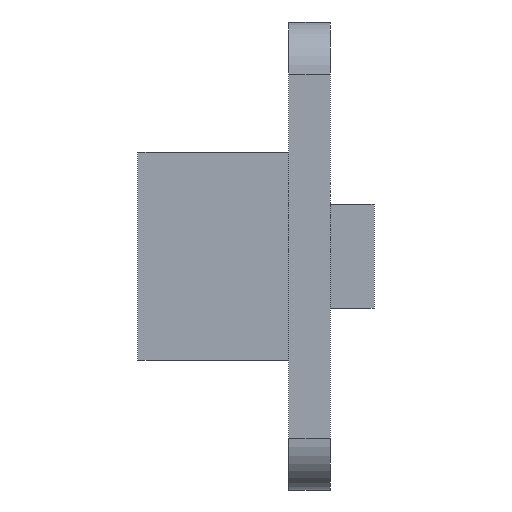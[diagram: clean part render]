
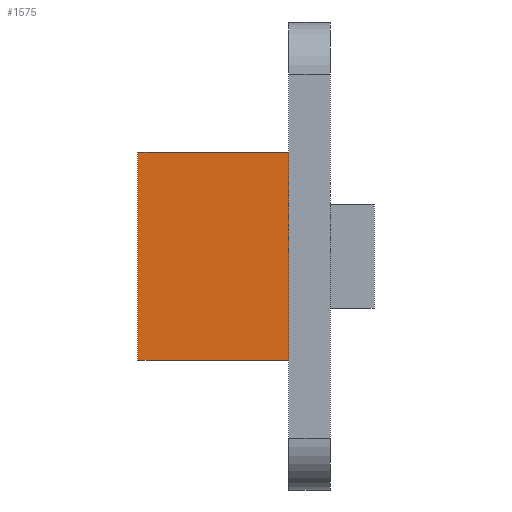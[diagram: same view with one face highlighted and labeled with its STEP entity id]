
A CAD part, left-side view. The second image highlights one B-rep face of the part: STEP entity #1575.
In plain terms, the highlighted planar face has unit normal (-1, 0, 0).
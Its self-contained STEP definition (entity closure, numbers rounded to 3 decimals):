
#100 = PLANE('',#101);
#101 = AXIS2_PLACEMENT_3D('',#102,#103,#104);
#102 = CARTESIAN_POINT('',(-24.,-52.7,15.5));
#103 = DIRECTION('',(-0.,1.,0.));
#104 = DIRECTION('',(0.,0.,1.));
#782 = VERTEX_POINT('',#783);
#783 = CARTESIAN_POINT('',(-23.,-52.7,22.));
#798 = PLANE('',#799);
#799 = AXIS2_PLACEMENT_3D('',#800,#801,#802);
#800 = CARTESIAN_POINT('',(-23.,-52.71,22.));
#801 = DIRECTION('',(0.,0.,1.));
#802 = DIRECTION('',(1.,0.,-0.));
#809 = EDGE_CURVE('',#782,#810,#812,.T.);
#810 = VERTEX_POINT('',#811);
#811 = CARTESIAN_POINT('',(-23.,-52.7,18.));
#812 = SURFACE_CURVE('',#813,(#817,#823),.PCURVE_S1.);
#813 = LINE('',#814,#815);
#814 = CARTESIAN_POINT('',(-23.,-52.7,16.75));
#815 = VECTOR('',#816,1.);
#816 = DIRECTION('',(-0.,0.,-1.));
#817 = PCURVE('',#100,#818);
#818 = DEFINITIONAL_REPRESENTATION('',(#819),#822);
#819 = B_SPLINE_CURVE_WITH_KNOTS('',1,(#820,#821),.UNSPECIFIED.,.F.,.F.,
  (2,2),(-5.25,-1.25),.PIECEWISE_BEZIER_KNOTS.);
#820 = CARTESIAN_POINT('',(6.5,1.));
#821 = CARTESIAN_POINT('',(2.5,1.));
#822 = ( GEOMETRIC_REPRESENTATION_CONTEXT(2) 
PARAMETRIC_REPRESENTATION_CONTEXT() REPRESENTATION_CONTEXT('2D SPACE',''
  ) );
#823 = PCURVE('',#824,#829);
#824 = PLANE('',#825);
#825 = AXIS2_PLACEMENT_3D('',#826,#827,#828);
#826 = CARTESIAN_POINT('',(-23.,-52.71,18.));
#827 = DIRECTION('',(1.,0.,-0.));
#828 = DIRECTION('',(0.,0.,1.));
#829 = DEFINITIONAL_REPRESENTATION('',(#830),#833);
#830 = B_SPLINE_CURVE_WITH_KNOTS('',1,(#831,#832),.UNSPECIFIED.,.F.,.F.,
  (2,2),(-5.25,-1.25),.PIECEWISE_BEZIER_KNOTS.);
#831 = CARTESIAN_POINT('',(4.,-0.01));
#832 = CARTESIAN_POINT('',(0.,-0.01));
#833 = ( GEOMETRIC_REPRESENTATION_CONTEXT(2) 
PARAMETRIC_REPRESENTATION_CONTEXT() REPRESENTATION_CONTEXT('2D SPACE',''
  ) );
#850 = PLANE('',#851);
#851 = AXIS2_PLACEMENT_3D('',#852,#853,#854);
#852 = CARTESIAN_POINT('',(-23.,-52.71,18.));
#853 = DIRECTION('',(0.,0.,1.));
#854 = DIRECTION('',(1.,0.,-0.));
#1405 = EDGE_CURVE('',#782,#1406,#1408,.T.);
#1406 = VERTEX_POINT('',#1407);
#1407 = CARTESIAN_POINT('',(-23.,-49.8,22.));
#1408 = SURFACE_CURVE('',#1409,(#1413,#1420),.PCURVE_S1.);
#1409 = LINE('',#1410,#1411);
#1410 = CARTESIAN_POINT('',(-23.,-52.71,22.));
#1411 = VECTOR('',#1412,1.);
#1412 = DIRECTION('',(-0.,1.,0.));
#1413 = PCURVE('',#798,#1414);
#1414 = DEFINITIONAL_REPRESENTATION('',(#1415),#1419);
#1415 = LINE('',#1416,#1417);
#1416 = CARTESIAN_POINT('',(0.,0.));
#1417 = VECTOR('',#1418,1.);
#1418 = DIRECTION('',(0.,1.));
#1419 = ( GEOMETRIC_REPRESENTATION_CONTEXT(2) 
PARAMETRIC_REPRESENTATION_CONTEXT() REPRESENTATION_CONTEXT('2D SPACE',''
  ) );
#1420 = PCURVE('',#824,#1421);
#1421 = DEFINITIONAL_REPRESENTATION('',(#1422),#1426);
#1422 = LINE('',#1423,#1424);
#1423 = CARTESIAN_POINT('',(4.,0.));
#1424 = VECTOR('',#1425,1.);
#1425 = DIRECTION('',(0.,-1.));
#1426 = ( GEOMETRIC_REPRESENTATION_CONTEXT(2) 
PARAMETRIC_REPRESENTATION_CONTEXT() REPRESENTATION_CONTEXT('2D SPACE',''
  ) );
#1466 = PLANE('',#1467);
#1467 = AXIS2_PLACEMENT_3D('',#1468,#1469,#1470);
#1468 = CARTESIAN_POINT('',(-23.,-49.8,18.));
#1469 = DIRECTION('',(-0.,1.,0.));
#1470 = DIRECTION('',(0.,0.,1.));
#1530 = EDGE_CURVE('',#810,#1531,#1533,.T.);
#1531 = VERTEX_POINT('',#1532);
#1532 = CARTESIAN_POINT('',(-23.,-49.8,18.));
#1533 = SURFACE_CURVE('',#1534,(#1538,#1545),.PCURVE_S1.);
#1534 = LINE('',#1535,#1536);
#1535 = CARTESIAN_POINT('',(-23.,-52.71,18.));
#1536 = VECTOR('',#1537,1.);
#1537 = DIRECTION('',(-0.,1.,0.));
#1538 = PCURVE('',#850,#1539);
#1539 = DEFINITIONAL_REPRESENTATION('',(#1540),#1544);
#1540 = LINE('',#1541,#1542);
#1541 = CARTESIAN_POINT('',(0.,0.));
#1542 = VECTOR('',#1543,1.);
#1543 = DIRECTION('',(0.,1.));
#1544 = ( GEOMETRIC_REPRESENTATION_CONTEXT(2) 
PARAMETRIC_REPRESENTATION_CONTEXT() REPRESENTATION_CONTEXT('2D SPACE',''
  ) );
#1545 = PCURVE('',#824,#1546);
#1546 = DEFINITIONAL_REPRESENTATION('',(#1547),#1551);
#1547 = LINE('',#1548,#1549);
#1548 = CARTESIAN_POINT('',(0.,0.));
#1549 = VECTOR('',#1550,1.);
#1550 = DIRECTION('',(0.,-1.));
#1551 = ( GEOMETRIC_REPRESENTATION_CONTEXT(2) 
PARAMETRIC_REPRESENTATION_CONTEXT() REPRESENTATION_CONTEXT('2D SPACE',''
  ) );
#1575 = ADVANCED_FACE('',(#1576),#824,.F.);
#1576 = FACE_BOUND('',#1577,.F.);
#1577 = EDGE_LOOP('',(#1578,#1579,#1580,#1581));
#1578 = ORIENTED_EDGE('',*,*,#1405,.F.);
#1579 = ORIENTED_EDGE('',*,*,#809,.T.);
#1580 = ORIENTED_EDGE('',*,*,#1530,.T.);
#1581 = ORIENTED_EDGE('',*,*,#1582,.T.);
#1582 = EDGE_CURVE('',#1531,#1406,#1583,.T.);
#1583 = SURFACE_CURVE('',#1584,(#1588,#1595),.PCURVE_S1.);
#1584 = LINE('',#1585,#1586);
#1585 = CARTESIAN_POINT('',(-23.,-49.8,18.));
#1586 = VECTOR('',#1587,1.);
#1587 = DIRECTION('',(0.,0.,1.));
#1588 = PCURVE('',#824,#1589);
#1589 = DEFINITIONAL_REPRESENTATION('',(#1590),#1594);
#1590 = LINE('',#1591,#1592);
#1591 = CARTESIAN_POINT('',(0.,-2.91));
#1592 = VECTOR('',#1593,1.);
#1593 = DIRECTION('',(1.,0.));
#1594 = ( GEOMETRIC_REPRESENTATION_CONTEXT(2) 
PARAMETRIC_REPRESENTATION_CONTEXT() REPRESENTATION_CONTEXT('2D SPACE',''
  ) );
#1595 = PCURVE('',#1466,#1596);
#1596 = DEFINITIONAL_REPRESENTATION('',(#1597),#1601);
#1597 = LINE('',#1598,#1599);
#1598 = CARTESIAN_POINT('',(0.,0.));
#1599 = VECTOR('',#1600,1.);
#1600 = DIRECTION('',(1.,0.));
#1601 = ( GEOMETRIC_REPRESENTATION_CONTEXT(2) 
PARAMETRIC_REPRESENTATION_CONTEXT() REPRESENTATION_CONTEXT('2D SPACE',''
  ) );
